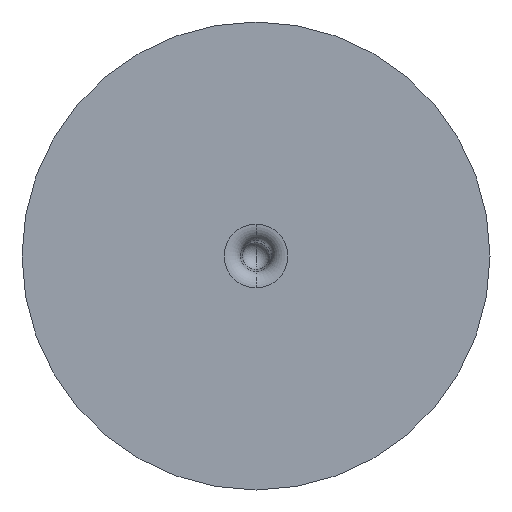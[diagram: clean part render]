
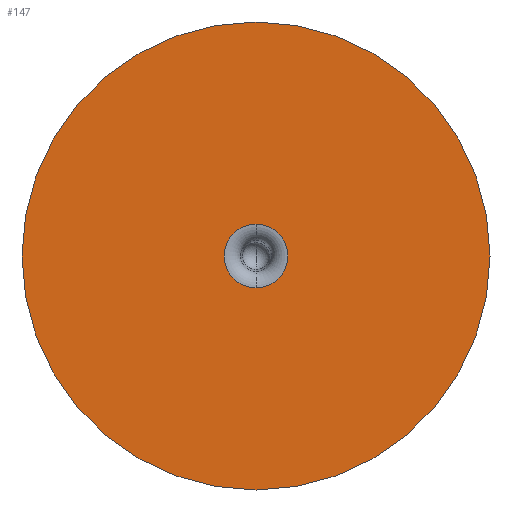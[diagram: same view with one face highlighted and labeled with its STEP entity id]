
A CAD part, front view. The second image highlights one B-rep face of the part: STEP entity #147.
In plain terms, the highlighted planar face has unit normal (0, -1, 0).
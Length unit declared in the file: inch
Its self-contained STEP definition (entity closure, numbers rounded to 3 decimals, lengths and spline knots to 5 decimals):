
#5 = AXIS2_PLACEMENT_3D ( 'NONE', #283, #405, #330 ) ;
#28 = AXIS2_PLACEMENT_3D ( 'NONE', #144, #35, #77 ) ;
#30 = CARTESIAN_POINT ( 'NONE',  ( 0., -0.036, -0.625 ) ) ;
#33 = CARTESIAN_POINT ( 'NONE',  ( 0., -0.036, 0. ) ) ;
#35 = DIRECTION ( 'NONE',  ( 0., 1., 0. ) ) ;
#44 = EDGE_CURVE ( 'NONE', #201, #318, #432, .T. ) ;
#53 = EDGE_CURVE ( 'NONE', #318, #201, #343, .T. ) ;
#73 = DIRECTION ( 'NONE',  ( 0., 0., -1. ) ) ;
#74 = ORIENTED_EDGE ( 'NONE', *, *, #44, .F. ) ;
#77 = DIRECTION ( 'NONE',  ( 0., 0., 1. ) ) ;
#82 = ORIENTED_EDGE ( 'NONE', *, *, #447, .T. ) ;
#118 = CIRCLE ( 'NONE', #184, 0.625 ) ;
#122 = ORIENTED_EDGE ( 'NONE', *, *, #53, .F. ) ;
#144 = CARTESIAN_POINT ( 'NONE',  ( -0.625, -0.036, 0. ) ) ;
#147 = ADVANCED_FACE ( 'NONE', ( #333, #266 ), #228, .F. ) ;
#184 = AXIS2_PLACEMENT_3D ( 'NONE', #311, #421, #237 ) ;
#185 = DIRECTION ( 'NONE',  ( 0., -1., 0. ) ) ;
#193 = CARTESIAN_POINT ( 'NONE',  ( 0., -0.036, 0.625 ) ) ;
#201 = VERTEX_POINT ( 'NONE', #340 ) ;
#204 = AXIS2_PLACEMENT_3D ( 'NONE', #33, #443, #407 ) ;
#228 = PLANE ( 'NONE',  #28 ) ;
#237 = DIRECTION ( 'NONE',  ( 0., 0., -1. ) ) ;
#244 = EDGE_LOOP ( 'NONE', ( #74, #122 ) ) ;
#248 = EDGE_CURVE ( 'NONE', #325, #489, #481, .T. ) ;
#266 = FACE_OUTER_BOUND ( 'NONE', #298, .T. ) ;
#283 = CARTESIAN_POINT ( 'NONE',  ( 0., -0.036, 0. ) ) ;
#298 = EDGE_LOOP ( 'NONE', ( #82, #312 ) ) ;
#311 = CARTESIAN_POINT ( 'NONE',  ( 0., -0.036, 0. ) ) ;
#312 = ORIENTED_EDGE ( 'NONE', *, *, #248, .T. ) ;
#318 = VERTEX_POINT ( 'NONE', #348 ) ;
#325 = VERTEX_POINT ( 'NONE', #193 ) ;
#330 = DIRECTION ( 'NONE',  ( 0., 0., -1. ) ) ;
#333 = FACE_BOUND ( 'NONE', #244, .T. ) ;
#340 = CARTESIAN_POINT ( 'NONE',  ( 0., -0.036, -0.08521 ) ) ;
#343 = CIRCLE ( 'NONE', #204, 0.08521 ) ;
#348 = CARTESIAN_POINT ( 'NONE',  ( 0., -0.036, 0.08521 ) ) ;
#363 = AXIS2_PLACEMENT_3D ( 'NONE', #370, #185, #73 ) ;
#370 = CARTESIAN_POINT ( 'NONE',  ( 0., -0.036, 0. ) ) ;
#405 = DIRECTION ( 'NONE',  ( 0., -1., 0. ) ) ;
#407 = DIRECTION ( 'NONE',  ( 0., 0., -1. ) ) ;
#421 = DIRECTION ( 'NONE',  ( 0., -1., 0. ) ) ;
#432 = CIRCLE ( 'NONE', #5, 0.08521 ) ;
#443 = DIRECTION ( 'NONE',  ( 0., -1., 0. ) ) ;
#447 = EDGE_CURVE ( 'NONE', #489, #325, #118, .T. ) ;
#481 = CIRCLE ( 'NONE', #363, 0.625 ) ;
#489 = VERTEX_POINT ( 'NONE', #30 ) ;
